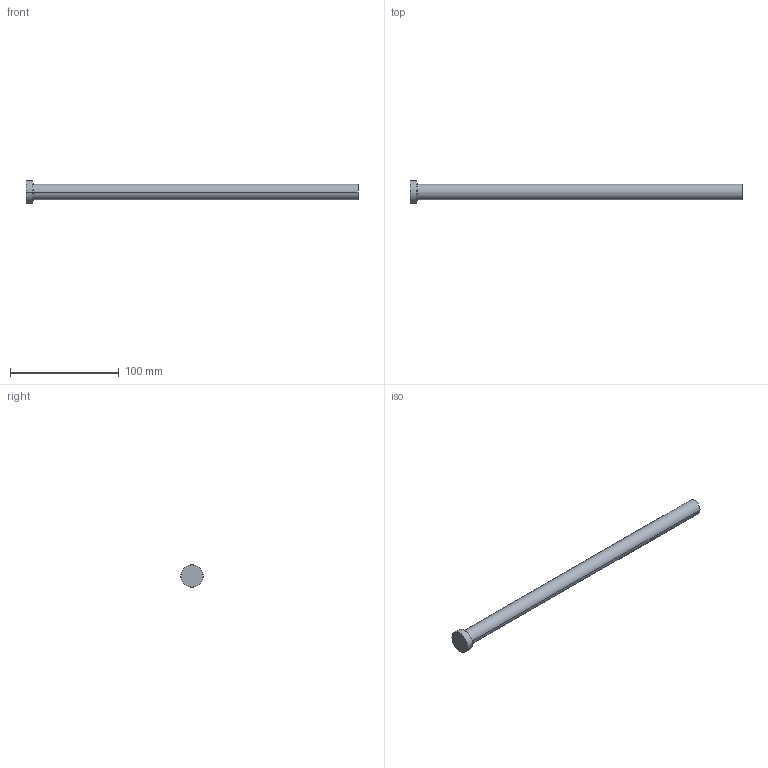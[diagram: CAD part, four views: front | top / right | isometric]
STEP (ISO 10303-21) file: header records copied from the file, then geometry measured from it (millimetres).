
FILE_DESCRIPTION (( 'STEP AP214' ), '1' );
FILE_NAME ('P35-12.STEP', '2020-03-12T12:00:35', ( '' ), ( '' ), 'SwSTEP 2.0', 'SolidWorks 2018', '' );
FILE_SCHEMA (( 'AUTOMOTIVE_DESIGN' ));
Length unit declared in the file: inch
Products named in the file (1): P35-12
Bounding box: 304.8 x 20.64 x 20.64 mm (x, y, z)
Volume: 49893.3 mm3; surface area: 14442.7 mm2
Topology: 1 solids, 1 shells, 13 faces, 24 edges, 14 vertices
Faces by surface type: cone 4, cylinder 4, plane 3, torus 2
Entity records: 366 total; most frequent: DIRECTION 68, CARTESIAN_POINT 52, ORIENTED_EDGE 48, AXIS2_PLACEMENT_3D 30, EDGE_CURVE 24, CIRCLE 16, VERTEX_POINT 14, EDGE_LOOP 14
